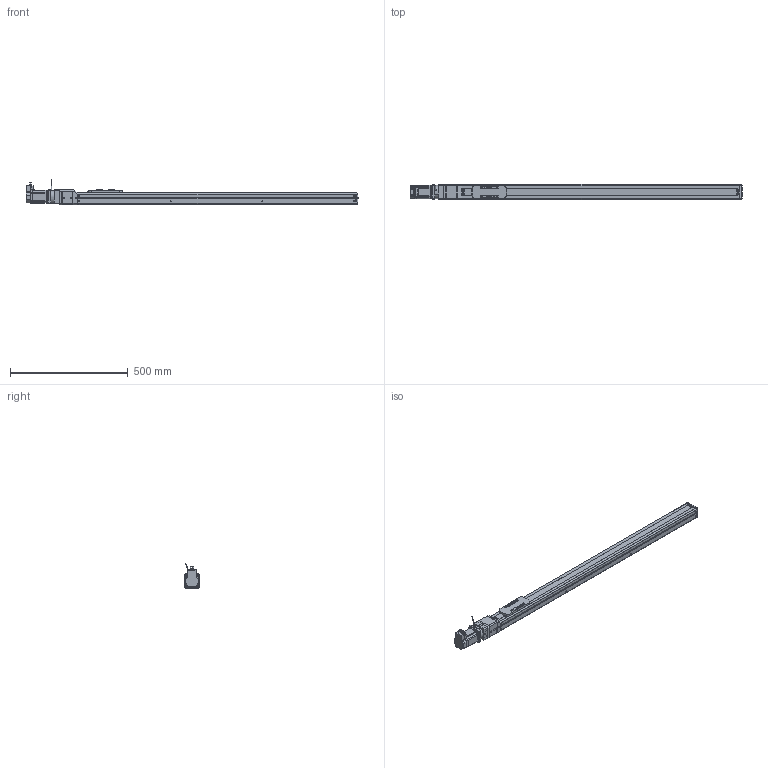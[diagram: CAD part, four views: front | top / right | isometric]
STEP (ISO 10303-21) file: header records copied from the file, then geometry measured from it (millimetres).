
FILE_DESCRIPTION(('FreeCAD Model'),'2;1');
FILE_NAME('Open CASCADE Shape Model','2023-08-03T16:29:08',('Author'),( ''),'Open CASCADE STEP processor 7.5','FreeCAD','Unknown');
FILE_SCHEMA(('AUTOMOTIVE_DESIGN { 1 0 10303 214 1 1 1 1 }'));
Length unit declared in the file: millimetre
Products named in the file (21): RMJ1211_BRK; Shapes; Shapes001; Shapes002; Shapes003; Shapes004; Shapes005; Shapes006; Shapes007; Shapes008; Shapes009; Shapes010; Shapes011; Shapes012; Body; BXW-03-10H-8_STEP; Body001; KSF6-20-0950-0-A0(0); KSF6---(Cover); KSF6-10-0050---(slider); KSF6-20-0950-A0 (0950A0No0)---(body)
Assembly tree (20 placements, depth 3):
  RMJ1211_BRK
    Shapes
    Shapes001
    Shapes002
    Shapes003
    Shapes004
    Shapes005
    Shapes006
    Shapes007
    Shapes008
    Shapes009
    Shapes010
    Shapes011
    Shapes012
    Body
    BXW-03-10H-8_STEP
    Body001
    KSF6-20-0950-0-A0(0)
      KSF6---(Cover)
      KSF6-10-0050---(slider)
      KSF6-20-0950-A0 (0950A0No0)---(body)
Bounding box: 1410.47 x 66.4 x 107.78 mm (x, y, z)
Volume: 4360288.6 mm3; surface area: 480624.1 mm2
Topology: 19 solids, 19 shells, 1906 faces, 5059 edges, 3318 vertices
Faces by surface type: plane 1259, cylinder 497, cone 91, bspline 28, torus 27, revolution 4
Full cylindrical faces by diameter (mm): 2.113 x8, 2.6 x4, 3 x5, 3.242 x5, 4.134 x4, 4.2 x7, 4.3 x1, 4.5 x2, 5 x1, 5.5 x18, 6.5 x4, 7.5 x4, 9 x1, 9.5 x12, 12 x1, 15.5 x1, 17 x1, 38.1 x1, 38.2 x1, 44 x1, 50 x2, 56.2 x1
Entity records: 135821 total; most frequent: CARTESIAN_POINT 31556, DIRECTION 19226, LINE 12457, VECTOR 12457, ORIENTED_EDGE 10070, PCURVE 10070, DEFINITIONAL_REPRESENTATION 10070, EDGE_CURVE 5035
